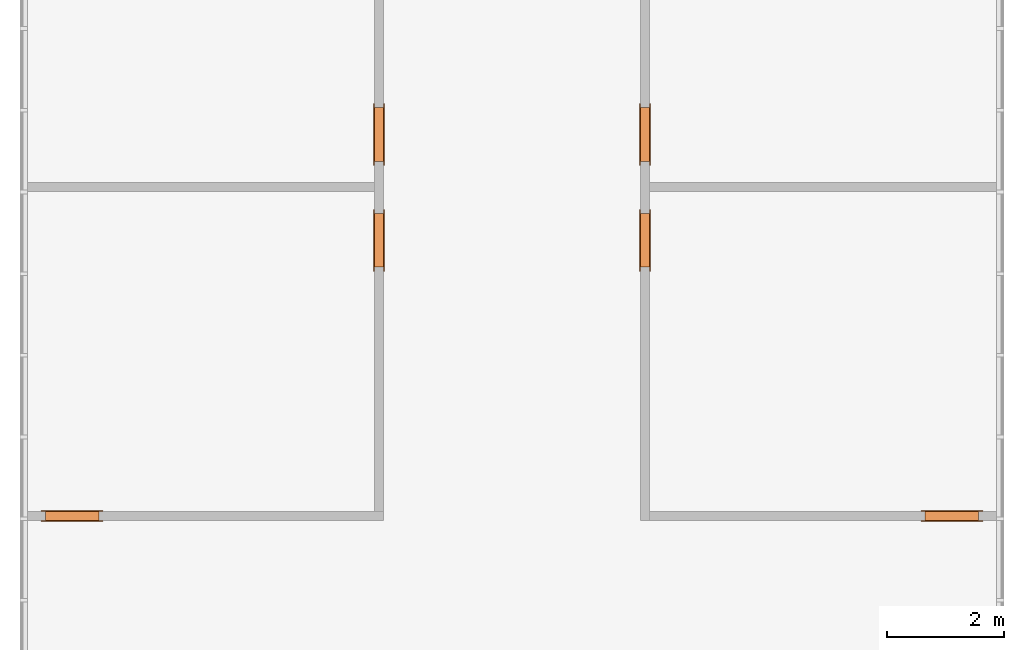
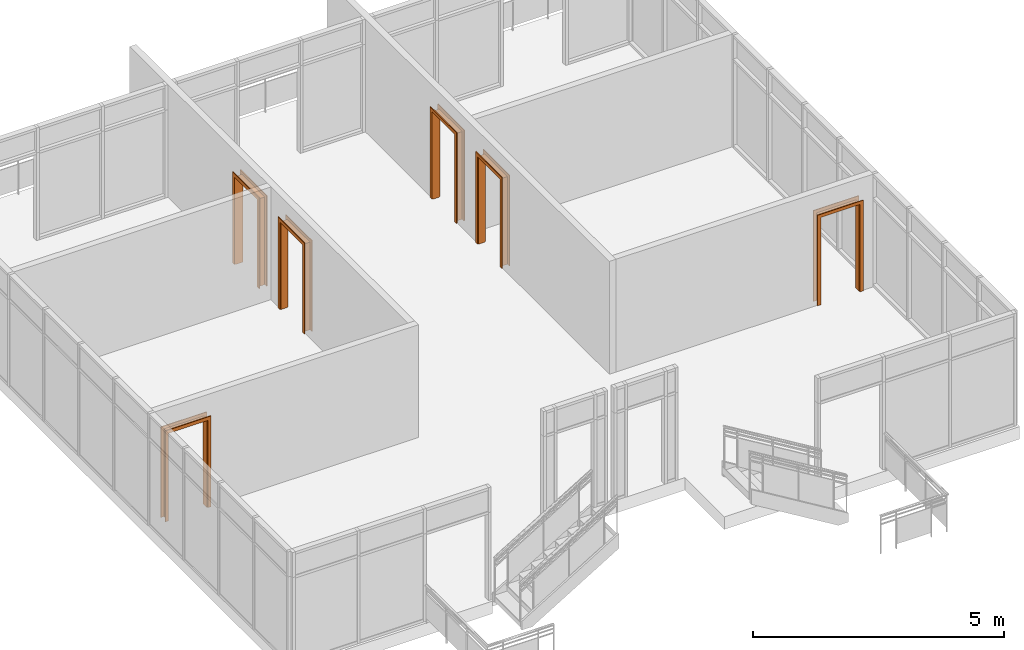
# One storey, part 11 of 11: 6 proxies.
"""IFC2X3 building model written with IfcOpenShell, lengths in feet."""

from ifc_helpers import new_model, entity, si_unit, converted_unit, derived_unit, direction, frame, origin, place, context, subcontext, project, spatial, faceted_brep, source, transform, mapped, material, type_object, type_shapes, element, save


model = new_model("IFC2X3")

# Units and contexts
model_context = context("Model", 3, precision=0.0001, world=origin(), true_north=direction((6.12303176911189e-17, 1.0)))
body_context = subcontext(model_context, "Body", "Model", "MODEL_VIEW")
ifc_project = project(units=[converted_unit("LENGTHUNIT", "FOOT", entity("IfcRatioMeasure", 0.3048), si_unit("LENGTHUNIT", "METRE"), dimensions=[1, 0, 0, 0, 0, 0, 0]), converted_unit("AREAUNIT", "SQUARE FOOT", entity("IfcRatioMeasure", 0.09290304), si_unit("AREAUNIT", "SQUARE_METRE"), dimensions=[2, 0, 0, 0, 0, 0, 0]), converted_unit("VOLUMEUNIT", "CUBIC FOOT", entity("IfcRatioMeasure", 0.028316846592), si_unit("VOLUMEUNIT", "CUBIC_METRE"), dimensions=[3, 0, 0, 0, 0, 0, 0]), converted_unit("PLANEANGLEUNIT", "DEGREE", entity("IfcRatioMeasure", 0.0174532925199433), si_unit("PLANEANGLEUNIT", "RADIAN"), dimensions=[0, 0, 0, 0, 0, 0, 0]), si_unit("MASSUNIT", "GRAM", prefix="KILO"), derived_unit("MASSDENSITYUNIT", [(si_unit("MASSUNIT", "GRAM", prefix="KILO"), 1), (si_unit("LENGTHUNIT", "METRE"), -3)]), si_unit("TIMEUNIT", "SECOND"), si_unit("FREQUENCYUNIT", "HERTZ"), si_unit("THERMODYNAMICTEMPERATUREUNIT", "DEGREE_CELSIUS"), derived_unit("THERMALTRANSMITTANCEUNIT", [(si_unit("MASSUNIT", "GRAM", prefix="KILO"), 1), (si_unit("THERMODYNAMICTEMPERATUREUNIT", "KELVIN"), -1), (si_unit("TIMEUNIT", "SECOND"), -3)]), derived_unit("VOLUMETRICFLOWRATEUNIT", [(si_unit("LENGTHUNIT", "METRE"), 3), (si_unit("TIMEUNIT", "SECOND"), -1)]), si_unit("ELECTRICCURRENTUNIT", "AMPERE"), si_unit("ELECTRICVOLTAGEUNIT", "VOLT"), si_unit("POWERUNIT", "WATT"), si_unit("FORCEUNIT", "NEWTON"), si_unit("ILLUMINANCEUNIT", "LUX"), si_unit("LUMINOUSFLUXUNIT", "LUMEN"), si_unit("LUMINOUSINTENSITYUNIT", "CANDELA"), derived_unit("USERDEFINED", [(si_unit("MASSUNIT", "GRAM", prefix="KILO"), -1), (si_unit("LENGTHUNIT", "METRE"), -2), (si_unit("TIMEUNIT", "SECOND"), 3), (si_unit("LUMINOUSFLUXUNIT", "LUMEN"), 1)]), derived_unit("LINEARVELOCITYUNIT", [(si_unit("LENGTHUNIT", "METRE"), 1), (si_unit("TIMEUNIT", "SECOND"), -1)]), si_unit("PRESSUREUNIT", "PASCAL"), derived_unit("USERDEFINED", [(si_unit("LENGTHUNIT", "METRE"), -2), (si_unit("MASSUNIT", "GRAM", prefix="KILO"), 1), (si_unit("TIMEUNIT", "SECOND"), -2)])], contexts=[model_context])

# Site, building, storey
site_placement = place(None, origin())
site = spatial("IfcSite", under=ifc_project, at=site_placement, Name="Default", CompositionType="ELEMENT")
building_placement = place(site_placement, origin())
building = spatial("IfcBuilding", under=site, at=building_placement, CompositionType="ELEMENT")
storey_placement = place(building_placement, frame((0.0, 0.0, 40.0)))
storey = spatial("IfcBuildingStorey", under=building, at=storey_placement, Name="L 7", CompositionType="ELEMENT", Elevation=39.9999999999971)

# Proxies
ifc_material = material(Name="Door - Frame")
building_element_proxy_type = type_object("IfcBuildingElementProxyType", Name="36\" x 84\"", PredefinedType="NOTDEFINED", material=ifc_material)
shared_shape = source(origin(), body_context, "Body", "Brep", [
    faceted_brep([(-1.50603233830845, -0.312500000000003, 0.0), (-1.50603233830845, -0.312500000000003, 6.97916666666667), (1.45230099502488, -0.312500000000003, 6.97916666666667), (1.45230099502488, -0.312500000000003, 0.0), (1.70230099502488, -0.312500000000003, 0.0), (1.70230099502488, -0.312500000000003, 7.22916666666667), (-1.75603233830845, -0.312500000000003, 7.22916666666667), (-1.75603233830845, -0.312500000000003, 0.0), (-1.50603233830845, -0.25, 0.0), (-1.75603233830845, -0.25, 0.0), (-1.75603233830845, -0.25, 7.22916666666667), (1.70230099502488, -0.25, 7.22916666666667), (1.70230099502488, -0.25, 0.0), (1.45230099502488, -0.25, 0.0), (1.45230099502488, -0.25, 6.97916666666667), (-1.50603233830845, -0.25, 6.97916666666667)], [[[0, 1, 2, 3, 4, 5, 6, 7]], [[8, 9, 10, 11, 12, 13, 14, 15]], [[1, 0, 8, 15]], [[2, 1, 15, 14]], [[3, 2, 14, 13]], [[4, 3, 13, 12]], [[5, 4, 12, 11]], [[6, 5, 11, 10]], [[7, 6, 10, 9]], [[0, 7, 9, 8]]]),
    faceted_brep([(1.70230099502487, 0.312500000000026, 0.0), (1.45230099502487, 0.312500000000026, 0.0), (1.45230099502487, 0.312500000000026, 6.97916666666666), (-1.50603233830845, 0.312500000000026, 6.97916666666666), (-1.50603233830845, 0.312500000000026, 0.0), (-1.75603233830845, 0.312500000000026, 0.0), (-1.75603233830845, 0.312500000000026, 7.25), (1.70230099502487, 0.312500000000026, 7.25), (1.70230099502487, 0.25, 0.0), (1.70230099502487, 0.25, 7.25), (-1.75603233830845, 0.25, 7.25), (-1.75603233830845, 0.25, 0.0), (-1.50603233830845, 0.25, 0.0), (-1.50603233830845, 0.25, 6.97916666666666), (1.45230099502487, 0.25, 6.97916666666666), (1.45230099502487, 0.25, 0.0)], [[[0, 1, 2, 3, 4, 5, 6, 7]], [[8, 9, 10, 11, 12, 13, 14, 15]], [[1, 0, 8, 15]], [[2, 1, 15, 14]], [[3, 2, 14, 13]], [[4, 3, 13, 12]], [[5, 4, 12, 11]], [[6, 5, 11, 10]], [[7, 6, 10, 9]], [[0, 7, 9, 8]]]),
    faceted_brep([(1.41063432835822, 0.25, 0.0), (1.47313432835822, 0.25, 0.0), (1.47313432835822, -0.25, 0.0), (1.41063432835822, -0.25, 0.0), (1.41063432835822, 0.25, 6.9375), (1.47313432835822, 0.25, 7.0), (1.47313432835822, -0.25, 7.0), (1.41063432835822, -0.25, 6.9375), (-1.46436567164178, 0.25, 6.9375), (-1.52686567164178, 0.25, 7.0), (-1.52686567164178, -0.25, 7.0), (-1.46436567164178, -0.25, 6.9375), (-1.46436567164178, 0.25, 0.0), (-1.46436567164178, -0.25, 0.0), (-1.52686567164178, -0.25, 0.0), (-1.52686567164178, 0.25, 0.0)], [[[0, 1, 2, 3]], [[1, 0, 4, 5]], [[2, 1, 5, 6]], [[3, 2, 6, 7]], [[0, 3, 7, 4]], [[5, 4, 8, 9]], [[6, 5, 9, 10]], [[7, 6, 10, 11]], [[4, 7, 11, 8]], [[12, 13, 14, 15]], [[9, 8, 12, 15]], [[10, 9, 15, 14]], [[11, 10, 14, 13]], [[8, 11, 13, 12]]]),
])
type_shapes(building_element_proxy_type, [shared_shape])
for number, where, z_axis, x_axis in (
    (1, (-41.4463748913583, 32.8773910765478, 0.0), (0.0, 0.0, 1.0), (0.0, 1.0, 0.0)),
    (2, (-41.4463748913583, 26.9468355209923, 0.0), (0.0, 0.0, 1.0), (0.0, 1.0, 0.0)),
    (3, (-26.5372839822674, 26.9468355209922, 0.0), (0.0, 0.0, 1.0), (0.0, 1.0, 0.0)),
    (4, (-26.5372839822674, 32.8236597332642, 0.0), (0.0, 0.0, 1.0), (0.0, -1.0, 0.0)),
):
    element("IfcBuildingElementProxy", number, at=place(storey_placement, frame(where, z_axis=z_axis, x_axis=x_axis)), inside=storey, type_object=building_element_proxy_type, material=ifc_material, Name="Passage Opening-Cased:36\" x 84\"", ObjectType="36\" x 84\"", context=body_context, shape_type="MappedRepresentation", body=[
        mapped(shared_shape, transform((0.0, 0.0, 0.0), scale=1.0)),
    ])
proxy_1_placement = place(storey_placement, frame((-9.33996376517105, 11.4894142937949, 0.0)))
element("IfcBuildingElementProxy", 5, at=proxy_1_placement, inside=storey, type_object=building_element_proxy_type, material=ifc_material, Name="Passage Opening-Cased:36\" x 84\"", ObjectType="36\" x 84\"", context=body_context, shape_type="MappedRepresentation", body=[
    mapped(shared_shape, transform((0.0, 0.0, 0.0), scale=1.0)),
])
proxy_2_placement = place(storey_placement, frame((-58.6436951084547, 11.489414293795, 0.0), z_axis=(0.0, 0.0, 1.0), x_axis=(-1.0, 0.0, 0.0)))
element("IfcBuildingElementProxy", 6, at=proxy_2_placement, inside=storey, type_object=building_element_proxy_type, material=ifc_material, Name="Passage Opening-Cased:36\" x 84\"", ObjectType="36\" x 84\"", context=body_context, shape_type="MappedRepresentation", body=[
    mapped(shared_shape, transform((0.0, 0.0, 0.0), scale=1.0)),
])

save(model, "model.ifc")
